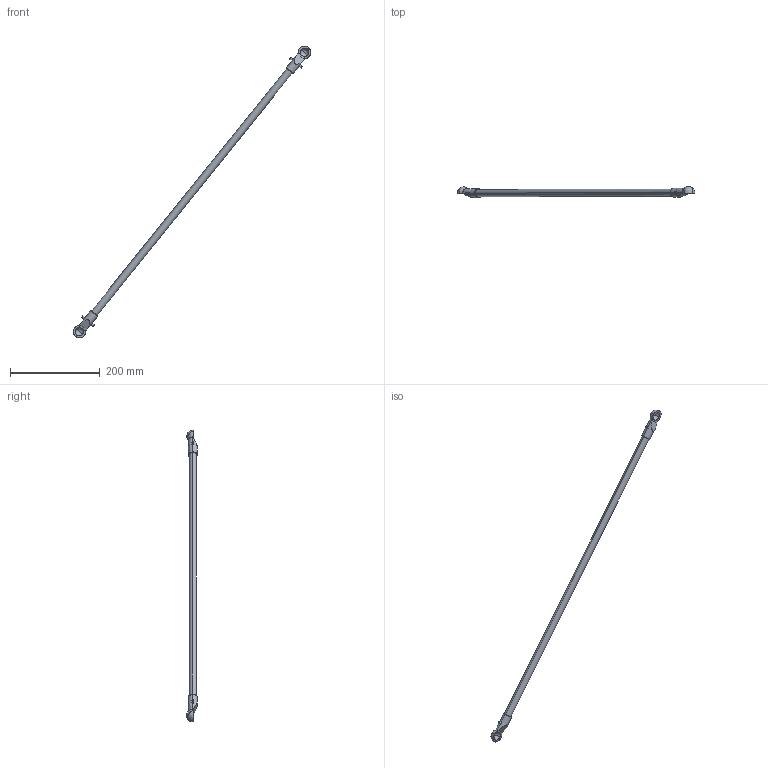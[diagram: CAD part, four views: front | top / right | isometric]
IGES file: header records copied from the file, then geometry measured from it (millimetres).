
Start section: SolidWorks IGES file using analytic representation for surfaces
Global section: file name: C:\Users\sedahar1\OneDrive - ABB\Documents\GPI local\Work Items\642287\IRB360_8-1130-STD-4D\IRB360_8-1130-STD-4D_rev03_LA1_2_CAD.IGS; native system: SolidWorks 2024; preprocessor: SolidWorks 2024; author: SEDAHAR1; date: 251103.101419; units: millimetre
Bounding box: 529.84 x 23.99 x 650.91 mm (x, y, z)
Surface area: 44609 mm2 (no closed solid volume)
Topology: 0 solids, 0 shells, 40 faces, 888 edges, 887 vertices
Faces by surface type: revolution 30, bspline 10
